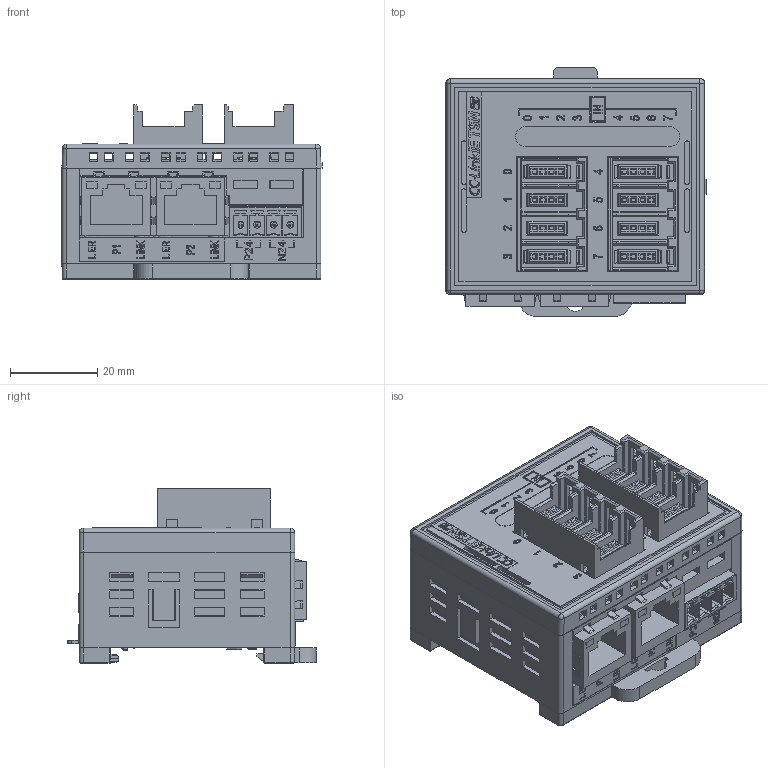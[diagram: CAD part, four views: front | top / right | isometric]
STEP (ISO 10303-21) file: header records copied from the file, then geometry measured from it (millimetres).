
FILE_DESCRIPTION((''),'2;1');
FILE_NAME('CTCEP80','2026-05-11T14:16:53',('gijyu181'),(''),'CREO PARAMETRIC BY PTC INC, 2018050','CREO PARAMETRIC BY PTC INC, 2018050','');
FILE_SCHEMA(('CONFIG_CONTROL_DESIGN','SHAPE_APPEARANCE_LAYERS_GROUPS'));
Products named in the file (1): CTCEP80
Bounding box: 59.75 x 57.15 x 40 mm (x, y, z)
Volume: 70223.8 mm3; surface area: 41252.6 mm2
Topology: 2 solids, 16 shells, 7397 faces, 20954 edges, 13865 vertices
Faces by surface type: plane 5790, cylinder 891, extrusion 602, sphere 44, torus 26, bspline 24, cone 20
Entity records: 300008 total; most frequent: CARTESIAN_POINT 51240, ORIENTED_EDGE 41880, DIRECTION 35368, EDGE_CURVE 20944, VECTOR 18068, LINE 17466, VERTEX_POINT 13865, PRESENTATION_STYLE_ASSIGNMENT 10843
